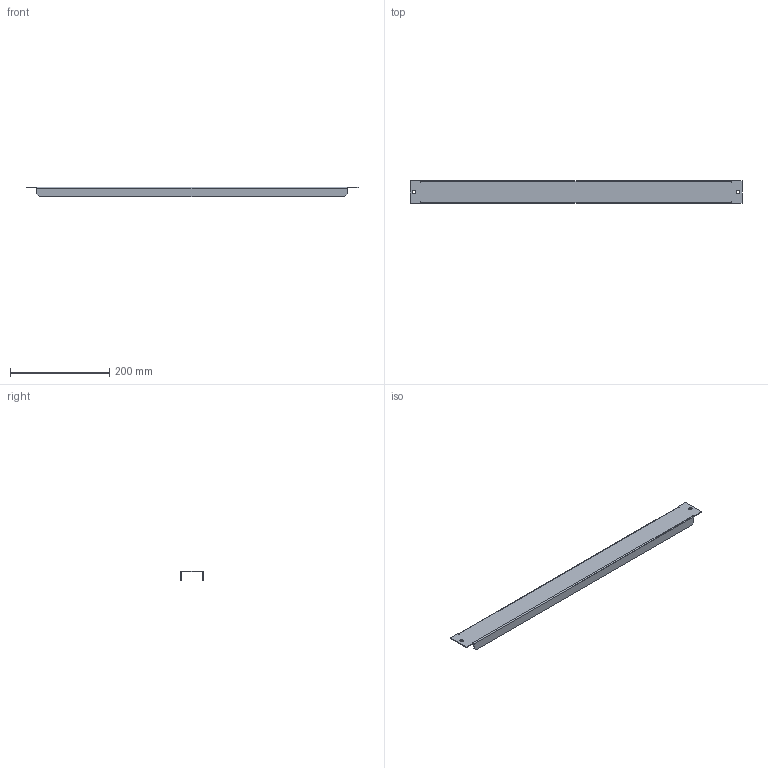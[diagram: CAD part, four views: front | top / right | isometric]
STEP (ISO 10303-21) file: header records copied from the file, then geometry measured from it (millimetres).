
FILE_DESCRIPTION (( 'STEP AP214' ), '1' );
FILE_NAME ('MSMPN0508.STEP', '2016-08-11T12:14:54', ( '' ), ( '' ), 'SwSTEP 2.0', 'SolidWorks 2014', '' );
FILE_SCHEMA (( 'AUTOMOTIVE_DESIGN' ));
Length unit declared in the file: millimetre
Products named in the file (1): MSMPN0508
Bounding box: 670 x 46 x 20 mm (x, y, z)
Volume: 79607 mm3; surface area: 108473.8 mm2
Topology: 1 solids, 1 shells, 44 faces, 112 edges, 70 vertices
Faces by surface type: plane 38, cylinder 6
Full cylindrical faces by diameter (mm): 6.5 x2
Entity records: 1310 total; most frequent: CARTESIAN_POINT 221, ORIENTED_EDGE 216, DIRECTION 210, EDGE_CURVE 108, LINE 96, VECTOR 96, VERTEX_POINT 68, AXIS2_PLACEMENT_3D 57
